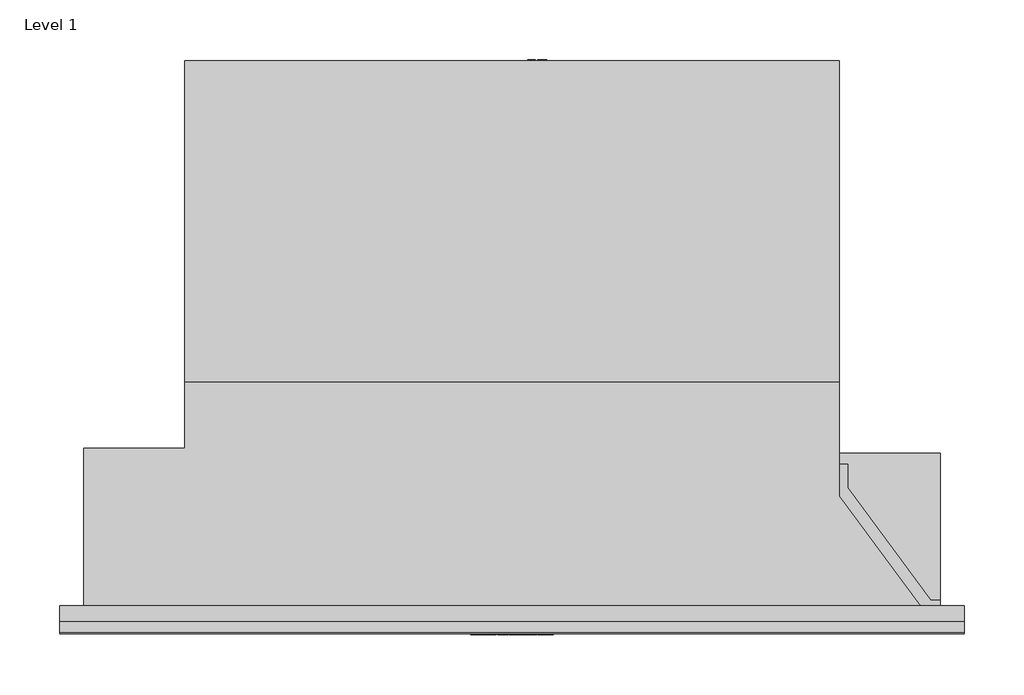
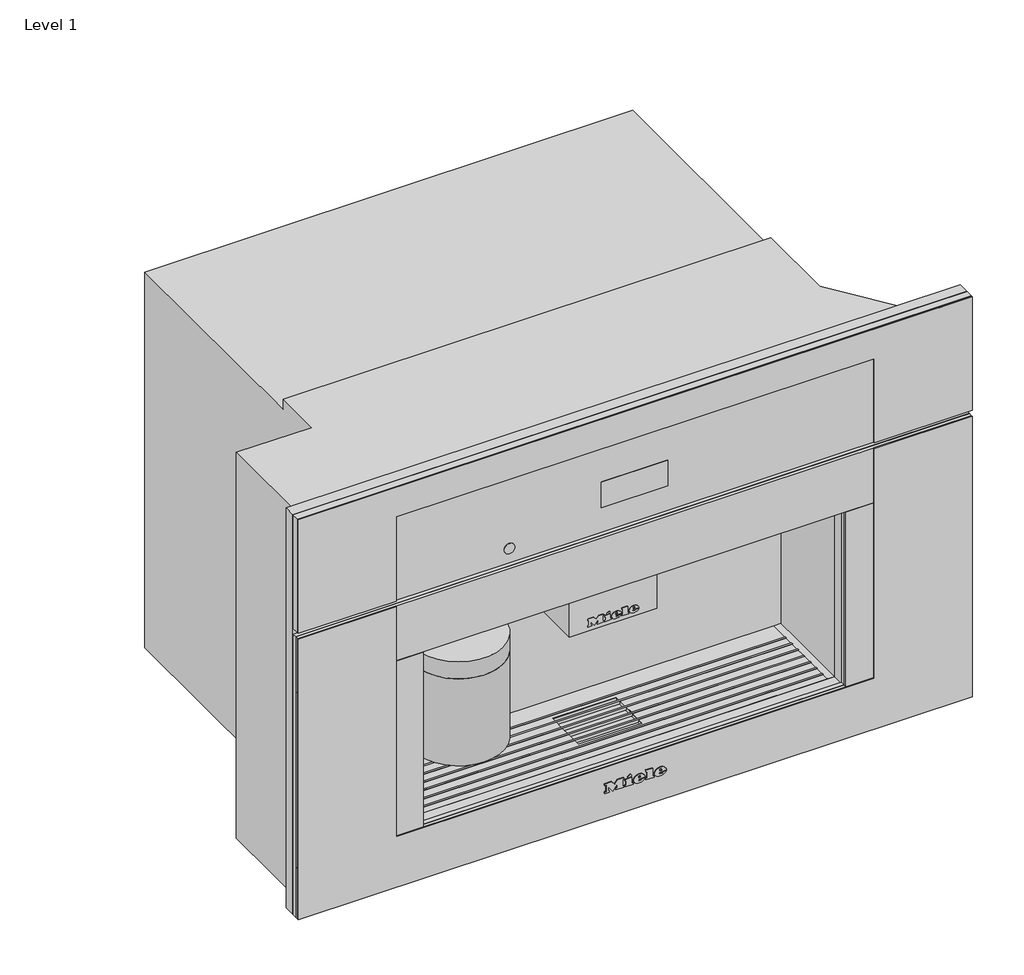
# One storey: 1 proxy.
"""IFC4 building model written with IfcOpenShell, lengths in millimetres."""

from ifc_helpers import new_model, si_unit, origin, place, context, project, spatial, transform, mapped, element, save
from components import specialty_equipment_d40f22d0

model = new_model("IFC4")

# Units and contexts
model_context = context("Model", 3, world=origin())
ifc_project = project(units=[si_unit("LENGTHUNIT", "METRE", prefix="MILLI")], contexts=[model_context])

# Site, building, storey
site = spatial("IfcSite", under=ifc_project)
building = spatial("IfcBuilding", under=site)
storey = spatial("IfcBuildingStorey", under=building, Name="Level 1", Elevation=0.0)

# Proxy
placement = place(None, origin())
specialty_equipment_shape = specialty_equipment_d40f22d0(model_context)
element("IfcBuildingElementProxy", 1, Name="11733830_USA_CVA7370_EDST-CLST : 29737040_USA_11733830_CVA7370_EDST-CLST", ObjectType="11733830_USA_CVA7370_EDST-CLST : 29737040_USA_11733830_CVA7370_EDST-CLST", at=placement, inside=storey, context=model_context, shape_type="MappedRepresentation", body=[
    mapped(specialty_equipment_shape, transform((0.0, 0.0, 0.0), x_axis=(1.0, 0.0, 0.0), y_axis=(0.0, 1.0, 0.0), z_axis=(0.0, 0.0, 1.0))),
])

save(model, "model.ifc")
